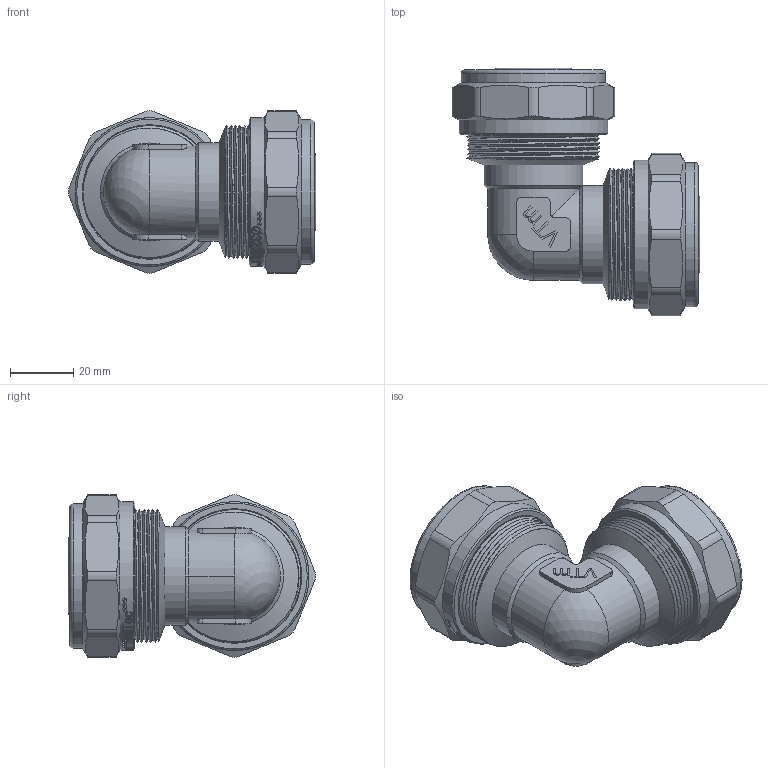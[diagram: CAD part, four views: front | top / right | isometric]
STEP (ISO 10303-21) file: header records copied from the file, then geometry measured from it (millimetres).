
FILE_DESCRIPTION(/* description */ (''),/* implementation_level */ '2;1');
FILE_NAME(/* name */ 'F:\Артём\00000\Работа удаленка\Обжимные фитинги\VTm.351.N.003236.stp',/* time_stamp */ '2020-08-06T13:17:37+03:00',/* author */ ('almis'),/* organization */ (''),/* preprocessor_version */ 'ST-DEVELOPER v18',/* originating_system */ 'Autodesk Inventor 2020',/* authorisation */ '');
FILE_SCHEMA (('AUTOMOTIVE_DESIGN { 1 0 10303 214 3 1 1 }'));
Length unit declared in the file: millimetre
Products named in the file (1): VTm.301.N.003206
Bounding box: 78.15 x 78.15 x 51.3 mm (x, y, z)
Volume: 78704.2 mm3; surface area: 43045.5 mm2
Topology: 1 solids, 1 shells, 1410 faces, 4004 edges, 2699 vertices
Faces by surface type: bspline 762, plane 400, cylinder 167, torus 48, cone 31, sphere 2
Full cylindrical faces by diameter (mm): 20 x2, 23.4 x4, 25.75 x10, 29 x1, 30.538 x8, 31 x2, 31.683 x10, 32.2 x2, 32.7 x2, 35.5 x2, 40.38 x14, 40.5 x2, 45.5 x2, 47 x2
Entity records: 60491 total; most frequent: CARTESIAN_POINT 28714, ORIENTED_EDGE 8004, DIRECTION 4214, EDGE_CURVE 4002, VERTEX_POINT 2699, LINE 1736, VECTOR 1736, B_SPLINE_CURVE_WITH_KNOTS 1644
